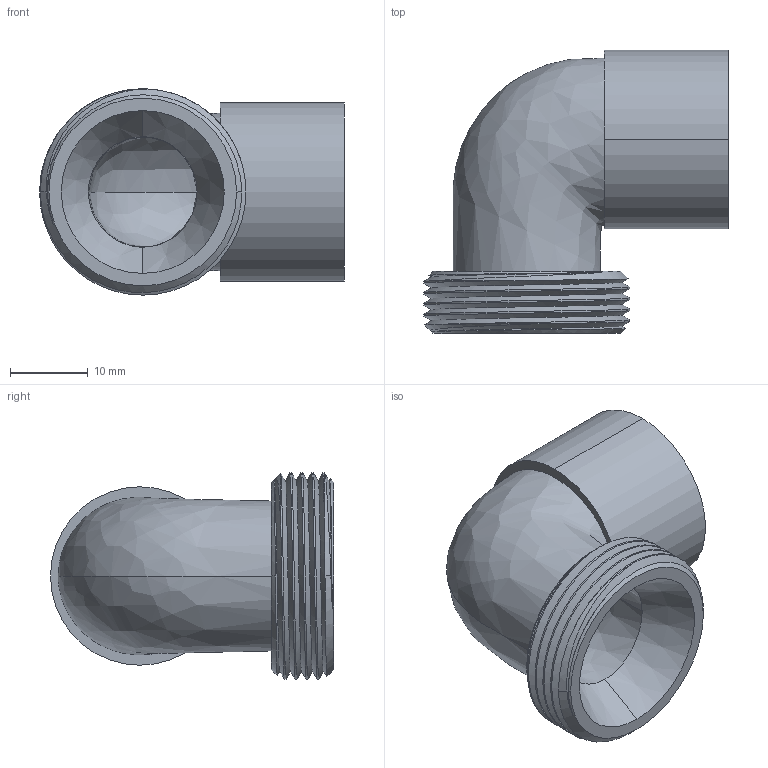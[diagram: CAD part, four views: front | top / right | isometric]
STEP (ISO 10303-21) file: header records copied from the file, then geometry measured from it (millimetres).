
FILE_DESCRIPTION (( 'STEP AP203' ), '1' );
FILE_NAME ('18X34.STEP', '2014-08-26T23:56:00', ( 'Administrators' ), ( 'JUJUMAO' ), 'SwSTEP 2.0', 'SolidWorks 2008', '' );
FILE_SCHEMA (( 'CONFIG_CONTROL_DESIGN' ));
Length unit declared in the file: millimetre
Products named in the file (1): 18X34
Bounding box: 39.3 x 36.5 x 26.6 mm (x, y, z)
Volume: 8160 mm3; surface area: 6742.6 mm2
Topology: 1 solids, 1 shells, 32 faces, 82 edges, 54 vertices
Faces by surface type: cylinder 13, cone 9, bspline 6, plane 4
Entity records: 3156 total; most frequent: CARTESIAN_POINT 2407, ORIENTED_EDGE 164, DIRECTION 107, EDGE_CURVE 82, VERTEX_POINT 54, AXIS2_PLACEMENT_3D 43, EDGE_LOOP 36, ADVANCED_FACE 32
